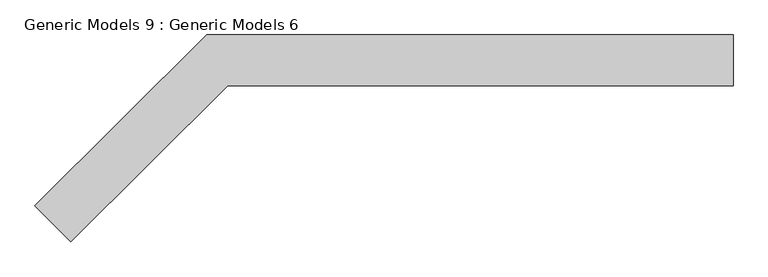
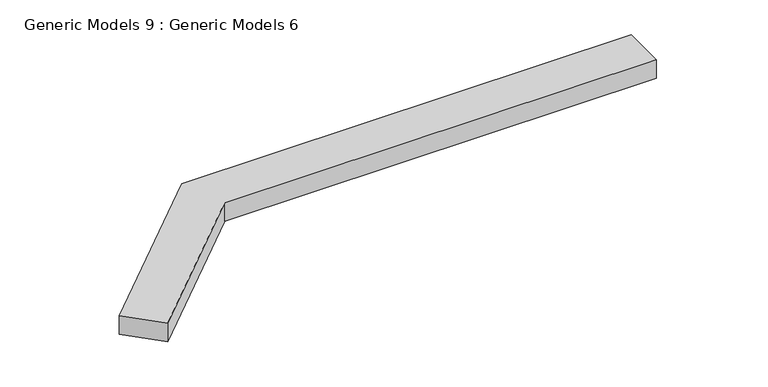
"""IFC4 building model written with IfcOpenShell, lengths in millimetres: proxy geometry, Generic Models 9 : Generic Models 6."""

from ifc_helpers import new_model, si_unit, frame, origin, place, context, project, spatial, polyline, outline, extrude, source, transform, mapped, element, save


def generic_models_9_generic_models_6_d56854cf(model_context):
    return source(origin(), model_context, "Body", "SweptSolid", [
        extrude(outline(polyline([(148.7614007, 11633.2), (-202.8042052, 11283.5542052), (-283.6268132, 11364.3768132), (101.6, 11747.5), (1282.7, 11747.5), (1282.7, 11633.2), (148.7614007, 11633.2)])), frame((0.0, 0.0, 3348.0), z_axis=(0.0, 0.0, 1.0), x_axis=(1.0, 0.0, 0.0)), (0.0, 0.0, 1.0), 50.8),
    ])


if __name__ == "__main__":
    model = new_model("IFC4")
    model_context = context("Model", 3, world=origin())
    ifc_project = project(units=[si_unit("LENGTHUNIT", "METRE", prefix="MILLI")], contexts=[model_context])
    site = spatial("IfcSite", under=ifc_project)
    building = spatial("IfcBuilding", under=site)
    placement = place(None, origin())
    generic_models_9_generic_models_6_shape = generic_models_9_generic_models_6_d56854cf(model_context)
    element("IfcBuildingElementProxy", 1, Name="Generic Models 9 : Generic Models 6", ObjectType="Generic Models 9 : Generic Models 6", at=placement, inside=building, context=model_context, shape_type="MappedRepresentation", body=[
        mapped(generic_models_9_generic_models_6_shape, transform((0.0, 0.0, 0.0), x_axis=(1.0, 0.0, 0.0), y_axis=(0.0, 1.0, 0.0), z_axis=(0.0, 0.0, 1.0))),
    ])
    save(model, "model.ifc")
